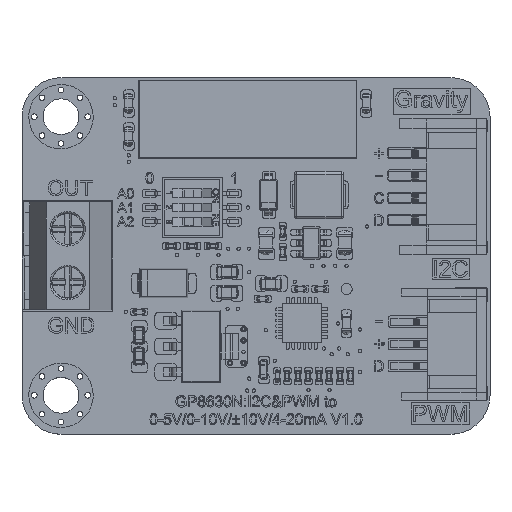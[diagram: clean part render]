
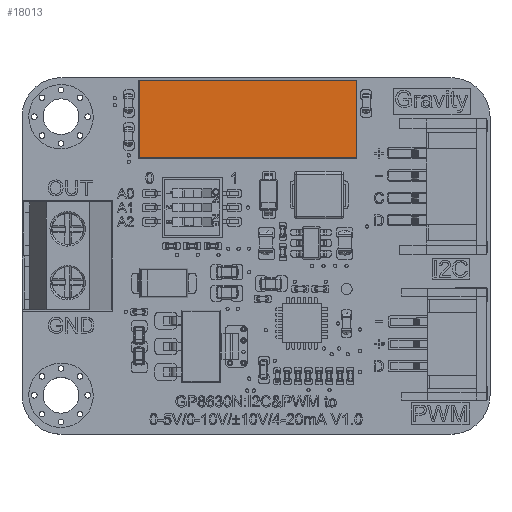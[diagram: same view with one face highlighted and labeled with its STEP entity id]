
A CAD part, top view. The second image highlights one B-rep face of the part: STEP entity #18013.
In plain terms, the highlighted planar face has unit normal (0, 0, 1).
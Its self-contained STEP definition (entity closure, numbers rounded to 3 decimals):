
#18013=ADVANCED_FACE('',(#25345),#120022,.T.);
#25345=FACE_OUTER_BOUND('',#32970,.T.);
#32970=EDGE_LOOP('',(#56585,#56586,#56587,#56588));
#56585=ORIENTED_EDGE('',*,*,#82322,.T.);
#56586=ORIENTED_EDGE('',*,*,#82325,.T.);
#56587=ORIENTED_EDGE('',*,*,#82323,.T.);
#56588=ORIENTED_EDGE('',*,*,#82324,.T.);
#82322=EDGE_CURVE('',#111651,#111652,#99983,.T.);
#82323=EDGE_CURVE('',#111653,#111654,#99984,.T.);
#82324=EDGE_CURVE('',#111654,#111651,#99985,.T.);
#82325=EDGE_CURVE('',#111652,#111653,#99986,.T.);
#99983=B_SPLINE_CURVE_WITH_KNOTS('',1,(#186834,#186835),.UNSPECIFIED.,.F.,
 .F.,(2,2),(0.05,6.978),.UNSPECIFIED.);
#99984=B_SPLINE_CURVE_WITH_KNOTS('',1,(#186836,#186837),.UNSPECIFIED.,.F.,
 .F.,(2,2),(0.05,6.978),.UNSPECIFIED.);
#99985=B_SPLINE_CURVE_WITH_KNOTS('',1,(#186838,#186839),.UNSPECIFIED.,.F.,
 .F.,(2,2),(0.05,19.555),.UNSPECIFIED.);
#99986=B_SPLINE_CURVE_WITH_KNOTS('',1,(#186840,#186841),.UNSPECIFIED.,.F.,
 .F.,(2,2),(0.05,19.555),.UNSPECIFIED.);
#111651=VERTEX_POINT('',#186790);
#111652=VERTEX_POINT('',#186791);
#111653=VERTEX_POINT('',#186792);
#111654=VERTEX_POINT('',#186793);
#120022=PLANE('',#125682);
#125682=AXIS2_PLACEMENT_3D('',#186627,#134019,$);
#134019=DIRECTION('',(0.,0.,1.));
#186627=CARTESIAN_POINT('',(-10.546,8.737,5.5));
#186790=CARTESIAN_POINT('',(9.009,8.787,5.5));
#186791=CARTESIAN_POINT('',(9.009,15.715,5.5));
#186792=CARTESIAN_POINT('',(-10.496,15.715,5.5));
#186793=CARTESIAN_POINT('',(-10.496,8.787,5.5));
#186834=CARTESIAN_POINT('',(9.009,8.787,5.5));
#186835=CARTESIAN_POINT('',(9.009,15.715,5.5));
#186836=CARTESIAN_POINT('',(-10.496,15.715,5.5));
#186837=CARTESIAN_POINT('',(-10.496,8.787,5.5));
#186838=CARTESIAN_POINT('',(-10.496,8.787,5.5));
#186839=CARTESIAN_POINT('',(9.009,8.787,5.5));
#186840=CARTESIAN_POINT('',(9.009,15.715,5.5));
#186841=CARTESIAN_POINT('',(-10.496,15.715,5.5));
